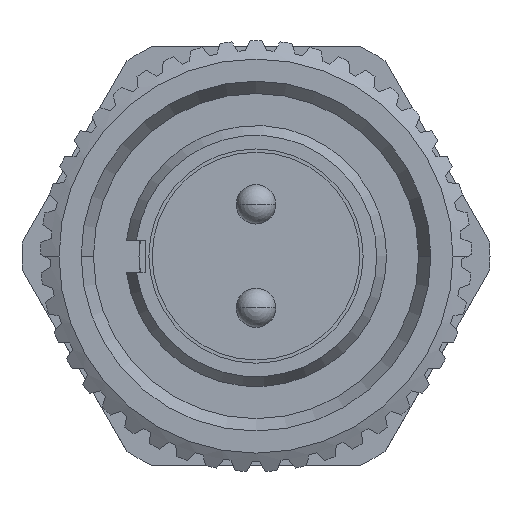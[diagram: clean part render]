
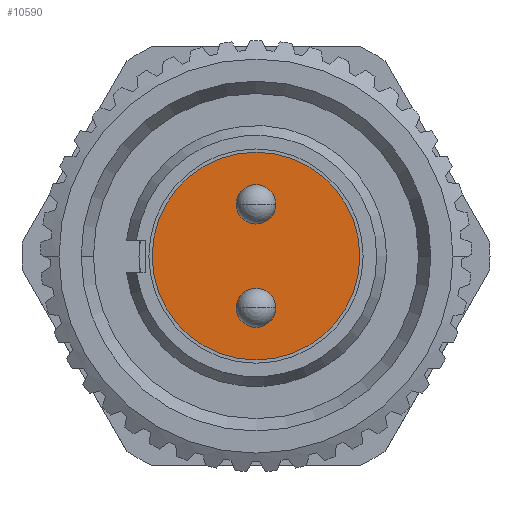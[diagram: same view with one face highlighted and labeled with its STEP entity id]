
A CAD part, left-side view. The second image highlights one B-rep face of the part: STEP entity #10590.
In plain terms, the highlighted planar face has unit normal (-1, 0, 0).
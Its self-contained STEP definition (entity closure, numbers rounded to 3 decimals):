
#4704=CARTESIAN_POINT('',(6.9,6.4,-6.405));
#4705=DIRECTION('',(-1.,0.,0.));
#4706=DIRECTION('',(0.,1.,0.));
#4707=AXIS2_PLACEMENT_3D('',#4704,#4705,#4706);
#4709=CARTESIAN_POINT('',(6.9,6.4,-8.505));
#4710=DIRECTION('',(-1.,0.,0.));
#4711=DIRECTION('',(0.,-1.,0.));
#4712=AXIS2_PLACEMENT_3D('',#4709,#4710,#4711);
#4714=CARTESIAN_POINT('',(6.9,6.4,-8.505));
#4715=DIRECTION('',(-1.,0.,0.));
#4716=DIRECTION('',(0.,1.,0.));
#4717=AXIS2_PLACEMENT_3D('',#4714,#4715,#4716);
#4719=CARTESIAN_POINT('',(6.9,6.4,-4.305));
#4720=DIRECTION('',(-1.,0.,0.));
#4721=DIRECTION('',(0.,-1.,0.));
#4722=AXIS2_PLACEMENT_3D('',#4719,#4720,#4721);
#4724=CARTESIAN_POINT('',(6.9,6.4,-4.305));
#4725=DIRECTION('',(-1.,0.,0.));
#4726=DIRECTION('',(0.,1.,0.));
#4727=AXIS2_PLACEMENT_3D('',#4724,#4725,#4726);
#4729=CARTESIAN_POINT('',(6.9,6.4,-6.405));
#4730=DIRECTION('',(-1.,0.,0.));
#4731=DIRECTION('',(0.,-1.,0.));
#4732=AXIS2_PLACEMENT_3D('',#4729,#4730,#4731);
#5639=CARTESIAN_POINT('',(6.9,10.615,-6.405));
#5640=CARTESIAN_POINT('',(6.9,2.185,-6.405));
#5641=VERTEX_POINT('',#5639);
#5642=VERTEX_POINT('',#5640);
#5643=CARTESIAN_POINT('',(6.9,5.6,-8.505));
#5644=CARTESIAN_POINT('',(6.9,7.2,-8.505));
#5645=VERTEX_POINT('',#5643);
#5646=VERTEX_POINT('',#5644);
#5647=CARTESIAN_POINT('',(6.9,5.6,-4.305));
#5648=CARTESIAN_POINT('',(6.9,7.2,-4.305));
#5649=VERTEX_POINT('',#5647);
#5650=VERTEX_POINT('',#5648);
#10568=CARTESIAN_POINT('',(6.9,6.38,-6.405));
#10569=DIRECTION('',(1.,0.,0.));
#10570=DIRECTION('',(0.,-1.,0.));
#10571=AXIS2_PLACEMENT_3D('',#10568,#10569,#10570);
#10572=PLANE('',#10571);
#10573=ORIENTED_EDGE('',*,*,#10558,.F.);
#10575=ORIENTED_EDGE('',*,*,#10574,.F.);
#10576=EDGE_LOOP('',(#10573,#10575));
#10577=FACE_OUTER_BOUND('',#10576,.F.);
#10579=ORIENTED_EDGE('',*,*,#10578,.T.);
#10581=ORIENTED_EDGE('',*,*,#10580,.T.);
#10582=EDGE_LOOP('',(#10579,#10581));
#10583=FACE_BOUND('',#10582,.F.);
#10585=ORIENTED_EDGE('',*,*,#10584,.T.);
#10587=ORIENTED_EDGE('',*,*,#10586,.T.);
#10588=EDGE_LOOP('',(#10585,#10587));
#10589=FACE_BOUND('',#10588,.F.);
#4708=CIRCLE('',#4707,4.215);
#4713=CIRCLE('',#4712,0.8);
#4718=CIRCLE('',#4717,0.8);
#4723=CIRCLE('',#4722,0.8);
#4728=CIRCLE('',#4727,0.8);
#4733=CIRCLE('',#4732,4.215);
#10558=EDGE_CURVE('',#5641,#5642,#4708,.T.);
#10574=EDGE_CURVE('',#5642,#5641,#4733,.T.);
#10578=EDGE_CURVE('',#5645,#5646,#4713,.T.);
#10580=EDGE_CURVE('',#5646,#5645,#4718,.T.);
#10584=EDGE_CURVE('',#5649,#5650,#4723,.T.);
#10586=EDGE_CURVE('',#5650,#5649,#4728,.T.);
#10590=ADVANCED_FACE('',(#10577,#10583,#10589),#10572,.F.);
